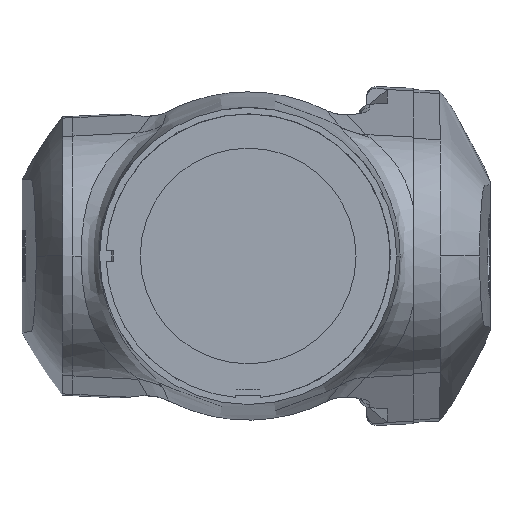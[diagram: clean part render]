
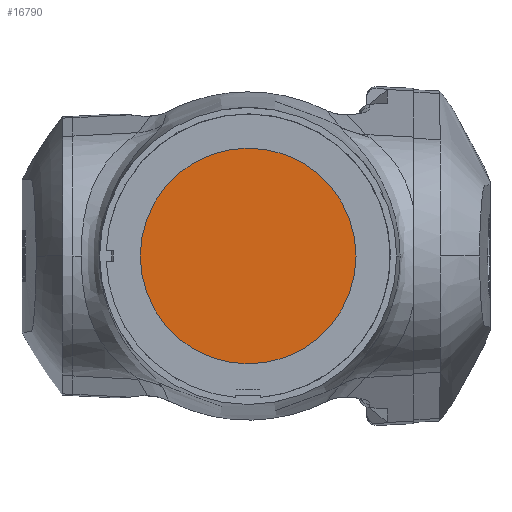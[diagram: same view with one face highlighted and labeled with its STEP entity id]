
A CAD part, left-side view. The second image highlights one B-rep face of the part: STEP entity #16790.
In plain terms, the highlighted planar face has unit normal (-1, 0, 0).
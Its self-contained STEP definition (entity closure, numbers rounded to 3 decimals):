
#216 = CIRCLE ( 'NONE', #27136, 85. ) ;
#1349 = ORIENTED_EDGE ( 'NONE', *, *, #10754, .T. ) ;
#2375 = CARTESIAN_POINT ( 'NONE',  ( 405., 0., 1990. ) ) ;
#4920 = DIRECTION ( 'NONE',  ( -1., 0., 0. ) ) ;
#5028 = PLANE ( 'NONE',  #10315 ) ;
#5193 = CARTESIAN_POINT ( 'NONE',  ( 405., 0., 1990. ) ) ;
#10315 = AXIS2_PLACEMENT_3D ( 'NONE', #2375, #18567, #29595 ) ;
#10754 = EDGE_CURVE ( 'NONE', #27791, #16934, #216, .T. ) ;
#11091 = CIRCLE ( 'NONE', #26772, 85. ) ;
#11691 = CARTESIAN_POINT ( 'NONE',  ( 405., 85., 1990. ) ) ;
#12305 = DIRECTION ( 'NONE',  ( 0., -1., 0. ) ) ;
#16790 = ADVANCED_FACE ( 'NONE', ( #29079 ), #5028, .T. ) ;
#16934 = VERTEX_POINT ( 'NONE', #11691 ) ;
#17739 = ORIENTED_EDGE ( 'NONE', *, *, #33017, .T. ) ;
#18567 = DIRECTION ( 'NONE',  ( -1., 0., 0. ) ) ;
#23359 = CARTESIAN_POINT ( 'NONE',  ( 405., 0., 1990. ) ) ;
#23543 = CARTESIAN_POINT ( 'NONE',  ( 405., -85., 1990. ) ) ;
#23630 = DIRECTION ( 'NONE',  ( -1., 0., 0. ) ) ;
#26618 = DIRECTION ( 'NONE',  ( 0., -1., 0. ) ) ;
#26772 = AXIS2_PLACEMENT_3D ( 'NONE', #23359, #4920, #12305 ) ;
#27136 = AXIS2_PLACEMENT_3D ( 'NONE', #5193, #23630, #26618 ) ;
#27791 = VERTEX_POINT ( 'NONE', #23543 ) ;
#29079 = FACE_OUTER_BOUND ( 'NONE', #34046, .T. ) ;
#29595 = DIRECTION ( 'NONE',  ( 0., -1., 0. ) ) ;
#33017 = EDGE_CURVE ( 'NONE', #16934, #27791, #11091, .T. ) ;
#34046 = EDGE_LOOP ( 'NONE', ( #17739, #1349 ) ) ;
